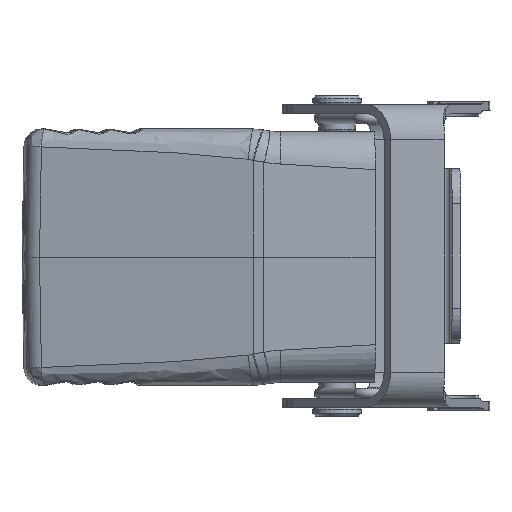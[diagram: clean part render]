
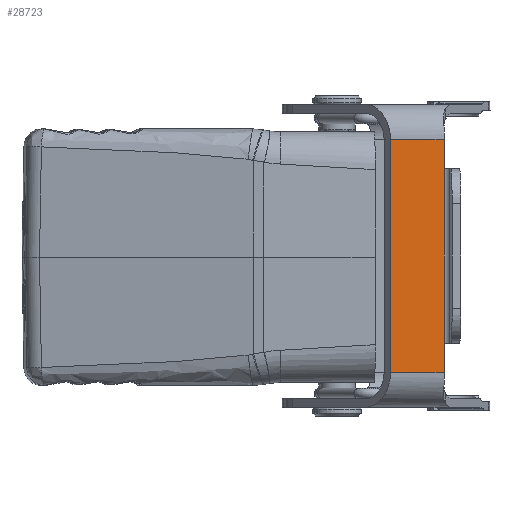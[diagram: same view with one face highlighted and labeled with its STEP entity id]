
A CAD part, left-side view. The second image highlights one B-rep face of the part: STEP entity #28723.
In plain terms, the highlighted planar face has unit normal (-0.999, -0.038, 0).
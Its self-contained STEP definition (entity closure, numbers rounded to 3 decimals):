
#667 = ORIENTED_EDGE ( 'NONE', *, *, #23755, .T. ) ;
#3387 = LINE ( 'NONE', #5682, #28369 ) ;
#3617 = CARTESIAN_POINT ( 'NONE',  ( -40.131, -12.199, -26.5 ) ) ;
#4733 = VECTOR ( 'NONE', #19503, 1000. ) ;
#4928 = CARTESIAN_POINT ( 'NONE',  ( -41.133, 14.439, -20. ) ) ;
#5682 = CARTESIAN_POINT ( 'NONE',  ( -40.131, -12.199, -26.5 ) ) ;
#5686 = ORIENTED_EDGE ( 'NONE', *, *, #18699, .F. ) ;
#6600 = EDGE_CURVE ( 'NONE', #26954, #6656, #28238, .T. ) ;
#6656 = VERTEX_POINT ( 'NONE', #7415 ) ;
#6902 = CARTESIAN_POINT ( 'NONE',  ( -40.477, -3.005, -20. ) ) ;
#7242 = EDGE_CURVE ( 'NONE', #13631, #21283, #15327, .T. ) ;
#7415 = CARTESIAN_POINT ( 'NONE',  ( -40.131, -12.199, 15. ) ) ;
#8967 = ORIENTED_EDGE ( 'NONE', *, *, #7242, .F. ) ;
#9237 = CARTESIAN_POINT ( 'NONE',  ( -40.477, -3.005, 20. ) ) ;
#9475 = CARTESIAN_POINT ( 'NONE',  ( -40.477, -3.005, -26.5 ) ) ;
#10644 = DIRECTION ( 'NONE',  ( 0., 0., 1. ) ) ;
#11202 = DIRECTION ( 'NONE',  ( 0.038, -0.999, 0. ) ) ;
#11903 = ORIENTED_EDGE ( 'NONE', *, *, #12856, .T. ) ;
#11985 = VECTOR ( 'NONE', #22547, 1000. ) ;
#12856 = EDGE_CURVE ( 'NONE', #6656, #30190, #3387, .T. ) ;
#13116 = LINE ( 'NONE', #3617, #11985 ) ;
#13493 = VECTOR ( 'NONE', #13978, 1000. ) ;
#13629 = FACE_OUTER_BOUND ( 'NONE', #19347, .T. ) ;
#13631 = VERTEX_POINT ( 'NONE', #17119 ) ;
#13978 = DIRECTION ( 'NONE',  ( 0., 0., 1. ) ) ;
#14263 = VECTOR ( 'NONE', #11202, 1000. ) ;
#14347 = PLANE ( 'NONE',  #20981 ) ;
#15327 = LINE ( 'NONE', #4928, #4733 ) ;
#17119 = CARTESIAN_POINT ( 'NONE',  ( -40.131, -12.199, -20. ) ) ;
#18699 = EDGE_CURVE ( 'NONE', #21283, #27869, #26943, .T. ) ;
#19347 = EDGE_LOOP ( 'NONE', ( #25139, #5686, #8967, #667, #20820, #11903 ) ) ;
#19397 = DIRECTION ( 'NONE',  ( -0.999, -0.038, 0. ) ) ;
#19503 = DIRECTION ( 'NONE',  ( -0.038, 0.999, 0. ) ) ;
#19572 = DIRECTION ( 'NONE',  ( 0., 0., 1. ) ) ;
#20820 = ORIENTED_EDGE ( 'NONE', *, *, #6600, .T. ) ;
#20981 = AXIS2_PLACEMENT_3D ( 'NONE', #9475, #19397, #29058 ) ;
#21283 = VERTEX_POINT ( 'NONE', #6902 ) ;
#22205 = LINE ( 'NONE', #25688, #14263 ) ;
#22372 = CARTESIAN_POINT ( 'NONE',  ( -40.131, -12.199, -15. ) ) ;
#22547 = DIRECTION ( 'NONE',  ( 0., 0., 1. ) ) ;
#23755 = EDGE_CURVE ( 'NONE', #13631, #26954, #13116, .T. ) ;
#25139 = ORIENTED_EDGE ( 'NONE', *, *, #31360, .F. ) ;
#25688 = CARTESIAN_POINT ( 'NONE',  ( -39.861, -19.357, 20. ) ) ;
#26943 = LINE ( 'NONE', #27107, #28456 ) ;
#26954 = VERTEX_POINT ( 'NONE', #22372 ) ;
#27107 = CARTESIAN_POINT ( 'NONE',  ( -40.477, -3.005, -26.5 ) ) ;
#27698 = CARTESIAN_POINT ( 'NONE',  ( -40.131, -12.199, 20. ) ) ;
#27869 = VERTEX_POINT ( 'NONE', #9237 ) ;
#28238 = LINE ( 'NONE', #28467, #13493 ) ;
#28369 = VECTOR ( 'NONE', #10644, 1000. ) ;
#28456 = VECTOR ( 'NONE', #19572, 1000. ) ;
#28467 = CARTESIAN_POINT ( 'NONE',  ( -40.131, -12.199, -26.5 ) ) ;
#28723 = ADVANCED_FACE ( 'NONE', ( #13629 ), #14347, .T. ) ;
#29058 = DIRECTION ( 'NONE',  ( 0., 0., -1. ) ) ;
#30190 = VERTEX_POINT ( 'NONE', #27698 ) ;
#31360 = EDGE_CURVE ( 'NONE', #27869, #30190, #22205, .T. ) ;
